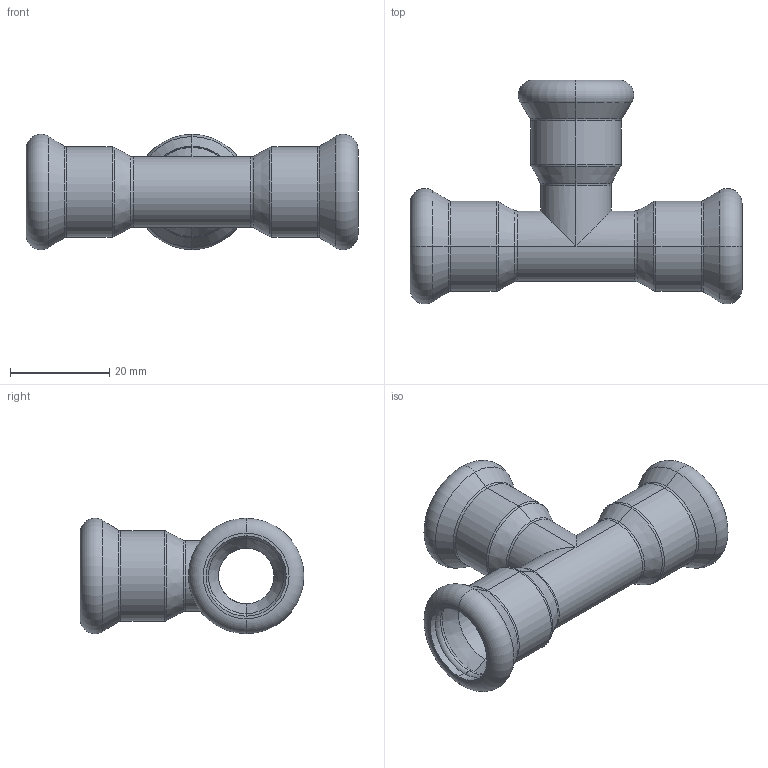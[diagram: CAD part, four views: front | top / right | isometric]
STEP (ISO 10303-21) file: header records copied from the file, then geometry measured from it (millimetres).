
FILE_DESCRIPTION (( 'STEP AP214' ), '1' );
FILE_NAME ('T150000.STEP', '2025-08-17T12:54:44', ( '' ), ( '' ), 'SwSTEP 2.0', 'SolidWorks 2020', '' );
FILE_SCHEMA (( 'AUTOMOTIVE_DESIGN' ));
Length unit declared in the file: millimetre
Products named in the file (1): T150000
Bounding box: 67 x 45.14 x 23.29 mm (x, y, z)
Volume: 8061.1 mm3; surface area: 11359.6 mm2
Topology: 4 solids, 4 shells, 100 faces, 202 edges, 106 vertices
Faces by surface type: torus 42, cylinder 28, cone 24, plane 6
Entity records: 3763 total; most frequent: DIRECTION 544, CARTESIAN_POINT 421, ORIENTED_EDGE 404, AXIS2_PLACEMENT_3D 245, EDGE_CURVE 202, CIRCLE 144, EDGE_LOOP 106, UNCERTAINTY_MEASURE_WITH_UNIT 106
